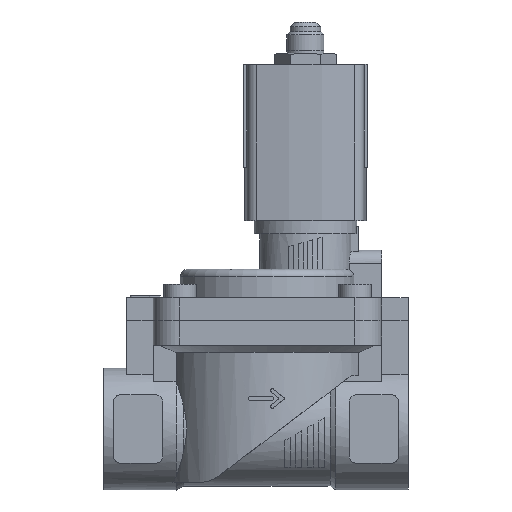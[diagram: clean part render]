
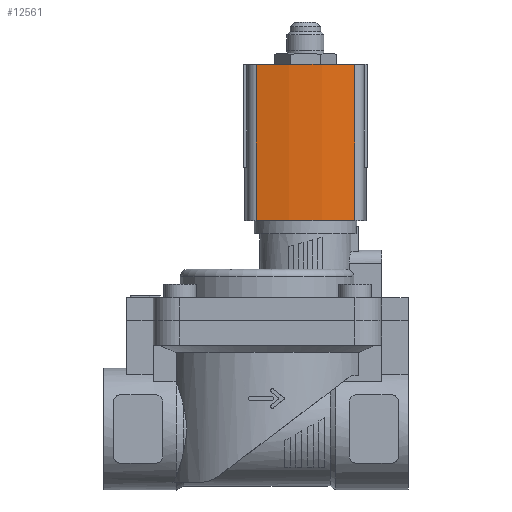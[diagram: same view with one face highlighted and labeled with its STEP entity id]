
A CAD part, top view. The second image highlights one B-rep face of the part: STEP entity #12561.
In plain terms, the highlighted cylindrical face has radius 60 mm (diameter 120 mm), a partial arc.
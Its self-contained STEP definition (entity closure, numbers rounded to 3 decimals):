
#239=CYLINDRICAL_SURFACE('',#13416,60.);
#1217=LINE('',#19226,#2277);
#1218=LINE('',#19230,#2278);
#2277=VECTOR('',#15919,1000.);
#2278=VECTOR('',#15924,1000.);
#4588=ORIENTED_EDGE('',*,*,#6592,.T.);
#4589=ORIENTED_EDGE('',*,*,#6593,.F.);
#4590=ORIENTED_EDGE('',*,*,#5878,.F.);
#4591=ORIENTED_EDGE('',*,*,#6591,.T.);
#5878=EDGE_CURVE('',#7128,#7129,#7857,.T.);
#6591=EDGE_CURVE('',#7128,#7634,#1217,.T.);
#6592=EDGE_CURVE('',#7634,#7635,#7951,.T.);
#6593=EDGE_CURVE('',#7129,#7635,#1218,.T.);
#7128=VERTEX_POINT('',#17880);
#7129=VERTEX_POINT('',#17882);
#7634=VERTEX_POINT('',#19225);
#7635=VERTEX_POINT('',#19229);
#7857=CIRCLE('',#13196,60.);
#7951=CIRCLE('',#13417,60.);
#8377=EDGE_LOOP('',(#4588,#4589,#4590,#4591));
#8965=FACE_BOUND('',#8377,.T.);
#12561=ADVANCED_FACE('',(#8965),#239,.T.);
#13196=AXIS2_PLACEMENT_3D('',#17881,#14860,#14861);
#13416=AXIS2_PLACEMENT_3D('',#19227,#15920,#15921);
#13417=AXIS2_PLACEMENT_3D('',#19228,#15922,#15923);
#14860=DIRECTION('',(0.,1.,0.));
#14861=DIRECTION('',(1.,0.,0.));
#15919=DIRECTION('',(0.,-1.,0.));
#15920=DIRECTION('',(0.,-1.,0.));
#15921=DIRECTION('',(0.,0.,-1.));
#15922=DIRECTION('',(0.,1.,0.));
#15923=DIRECTION('',(1.,0.,0.));
#15924=DIRECTION('',(0.,-1.,0.));
#17880=CARTESIAN_POINT('',(19.078,15.,12.986));
#17881=CARTESIAN_POINT('',(-39.5,15.,0.));
#17882=CARTESIAN_POINT('',(19.078,15.,-12.986));
#19225=CARTESIAN_POINT('',(19.078,-26.,12.986));
#19226=CARTESIAN_POINT('',(19.078,15.,12.986));
#19227=CARTESIAN_POINT('',(-39.5,15.,0.));
#19228=CARTESIAN_POINT('',(-39.5,-26.,0.));
#19229=CARTESIAN_POINT('',(19.078,-26.,-12.986));
#19230=CARTESIAN_POINT('',(19.078,15.,-12.986));
